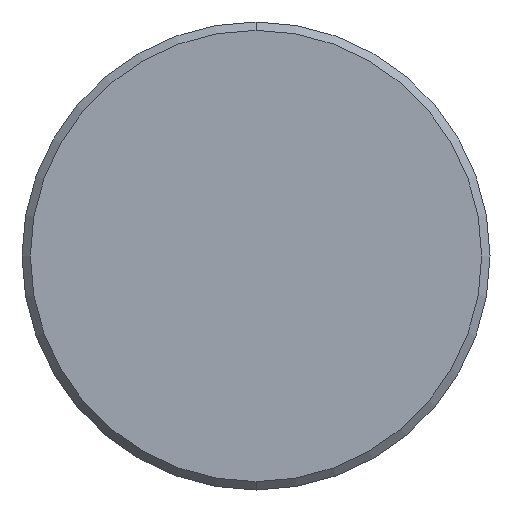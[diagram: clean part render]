
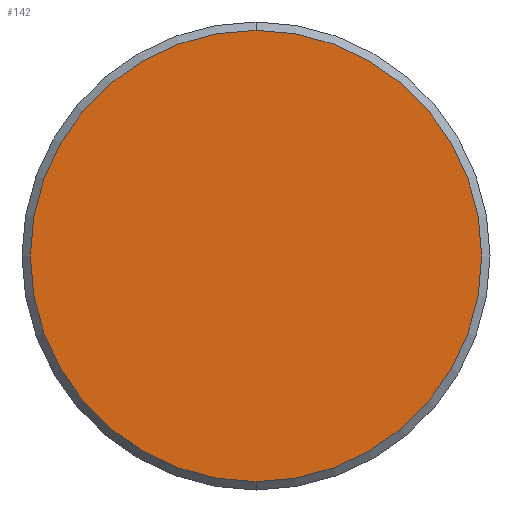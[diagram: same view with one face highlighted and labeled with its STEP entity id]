
A CAD part, front view. The second image highlights one B-rep face of the part: STEP entity #142.
In plain terms, the highlighted planar face has unit normal (0, -1, 0).
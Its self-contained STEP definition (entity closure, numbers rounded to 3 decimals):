
#29 = DIRECTION ( 'NONE',  ( 0., 0., 1. ) ) ;
#32 = CARTESIAN_POINT ( 'NONE',  ( 0., 0., 0. ) ) ;
#39 = AXIS2_PLACEMENT_3D ( 'NONE', #32, #458, #29 ) ;
#42 = DIRECTION ( 'NONE',  ( 0., -1., 0. ) ) ;
#47 = CIRCLE ( 'NONE', #286, 13.5 ) ;
#63 = VERTEX_POINT ( 'NONE', #76 ) ;
#76 = CARTESIAN_POINT ( 'NONE',  ( 0., 0., 13.5 ) ) ;
#111 = ORIENTED_EDGE ( 'NONE', *, *, #192, .T. ) ;
#121 = CARTESIAN_POINT ( 'NONE',  ( 0., 0., 0. ) ) ;
#142 = ADVANCED_FACE ( 'NONE', ( #209 ), #549, .F. ) ;
#192 = EDGE_CURVE ( 'NONE', #219, #63, #47, .T. ) ;
#209 = FACE_OUTER_BOUND ( 'NONE', #236, .T. ) ;
#219 = VERTEX_POINT ( 'NONE', #604 ) ;
#236 = EDGE_LOOP ( 'NONE', ( #364, #111 ) ) ;
#286 = AXIS2_PLACEMENT_3D ( 'NONE', #476, #42, #633 ) ;
#307 = CIRCLE ( 'NONE', #39, 13.5 ) ;
#364 = ORIENTED_EDGE ( 'NONE', *, *, #395, .T. ) ;
#395 = EDGE_CURVE ( 'NONE', #63, #219, #307, .T. ) ;
#403 = AXIS2_PLACEMENT_3D ( 'NONE', #121, #605, #504 ) ;
#458 = DIRECTION ( 'NONE',  ( 0., -1., 0. ) ) ;
#476 = CARTESIAN_POINT ( 'NONE',  ( 0., 0., 0. ) ) ;
#504 = DIRECTION ( 'NONE',  ( 0., 0., 1. ) ) ;
#549 = PLANE ( 'NONE',  #403 ) ;
#604 = CARTESIAN_POINT ( 'NONE',  ( 0., 0., -13.5 ) ) ;
#605 = DIRECTION ( 'NONE',  ( 0., 1., 0. ) ) ;
#633 = DIRECTION ( 'NONE',  ( 0., 0., 1. ) ) ;
